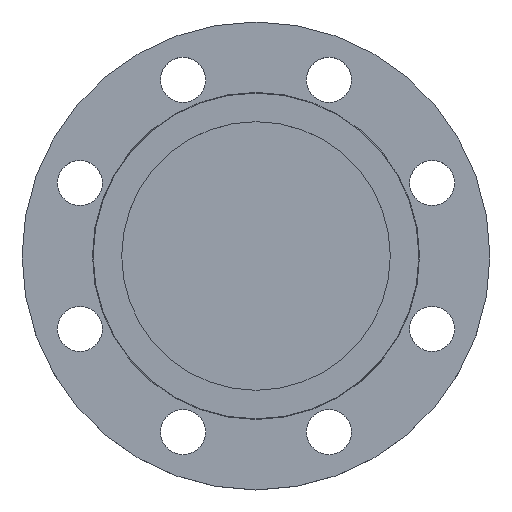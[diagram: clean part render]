
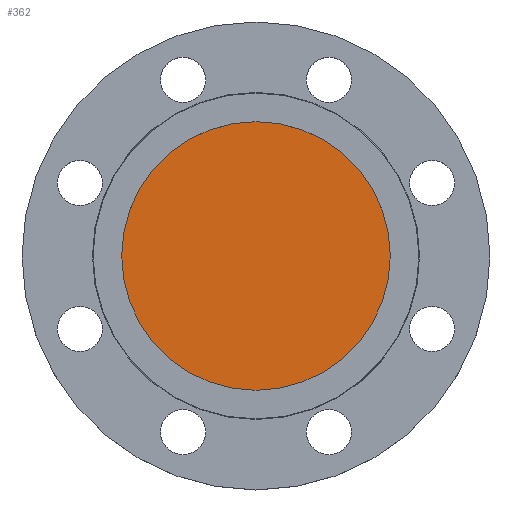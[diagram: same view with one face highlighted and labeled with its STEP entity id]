
A CAD part, top view. The second image highlights one B-rep face of the part: STEP entity #362.
In plain terms, the highlighted planar face has unit normal (0, 0, 1).
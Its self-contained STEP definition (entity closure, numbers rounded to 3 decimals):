
#41 = CIRCLE ( 'NONE', #61, 77.5 ) ;
#61 = AXIS2_PLACEMENT_3D ( 'NONE', #435, #432, #430 ) ;
#66 = DIRECTION ( 'NONE',  ( -1., 0., 0. ) ) ;
#68 = DIRECTION ( 'NONE',  ( 0., 0., -1. ) ) ;
#69 = CARTESIAN_POINT ( 'NONE',  ( 0., 0., -5. ) ) ;
#82 = CARTESIAN_POINT ( 'NONE',  ( 77.5, 0., -5. ) ) ;
#94 = VERTEX_POINT ( 'NONE', #815 ) ;
#262 = AXIS2_PLACEMENT_3D ( 'NONE', #691, #710, #688 ) ;
#362 = ADVANCED_FACE ( 'NONE', ( #648 ), #656, .T. ) ;
#430 = DIRECTION ( 'NONE',  ( -1., 0., 0. ) ) ;
#432 = DIRECTION ( 'NONE',  ( 0., 0., -1. ) ) ;
#435 = CARTESIAN_POINT ( 'NONE',  ( 0., 0., -5. ) ) ;
#490 = AXIS2_PLACEMENT_3D ( 'NONE', #69, #68, #66 ) ;
#648 = FACE_OUTER_BOUND ( 'NONE', #746, .T. ) ;
#656 = PLANE ( 'NONE',  #262 ) ;
#661 = EDGE_CURVE ( 'NONE', #94, #939, #41, .T. ) ;
#688 = DIRECTION ( 'NONE',  ( 1., 0., 0. ) ) ;
#691 = CARTESIAN_POINT ( 'NONE',  ( 0., 0., -5. ) ) ;
#710 = DIRECTION ( 'NONE',  ( 0., 0., 1. ) ) ;
#746 = EDGE_LOOP ( 'NONE', ( #1124, #1126 ) ) ;
#815 = CARTESIAN_POINT ( 'NONE',  ( -77.5, 0., -5. ) ) ;
#939 = VERTEX_POINT ( 'NONE', #82 ) ;
#977 = EDGE_CURVE ( 'NONE', #939, #94, #1055, .T. ) ;
#1055 = CIRCLE ( 'NONE', #490, 77.5 ) ;
#1124 = ORIENTED_EDGE ( 'NONE', *, *, #661, .F. ) ;
#1126 = ORIENTED_EDGE ( 'NONE', *, *, #977, .F. ) ;
